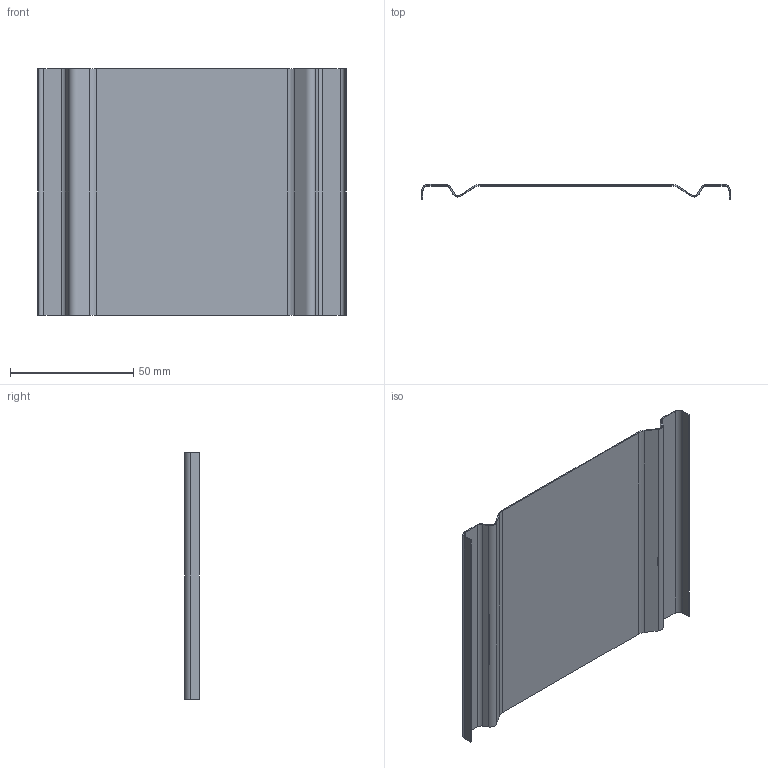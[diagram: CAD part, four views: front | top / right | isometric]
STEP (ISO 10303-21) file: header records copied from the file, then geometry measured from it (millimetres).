
FILE_DESCRIPTION (( 'STEP AP214' ), '1' );
FILE_NAME ('CVR UF100.step', '2017-04-05T07:53:37', ( '' ), ( '' ), 'SwSTEP 2.0', 'SolidWorks 2015', '' );
FILE_SCHEMA (( 'AUTOMOTIVE_DESIGN' ));
Length unit declared in the file: millimetre
Products named in the file (1): CVR UF100
Bounding box: 125 x 6 x 100 mm (x, y, z)
Volume: 7032.3 mm3; surface area: 28370 mm2
Topology: 1 solids, 1 shells, 38 faces, 108 edges, 72 vertices
Faces by surface type: plane 22, cylinder 16
Entity records: 1278 total; most frequent: CARTESIAN_POINT 219, DIRECTION 218, ORIENTED_EDGE 216, EDGE_CURVE 108, VECTOR 76, LINE 76, VERTEX_POINT 72, AXIS2_PLACEMENT_3D 71
